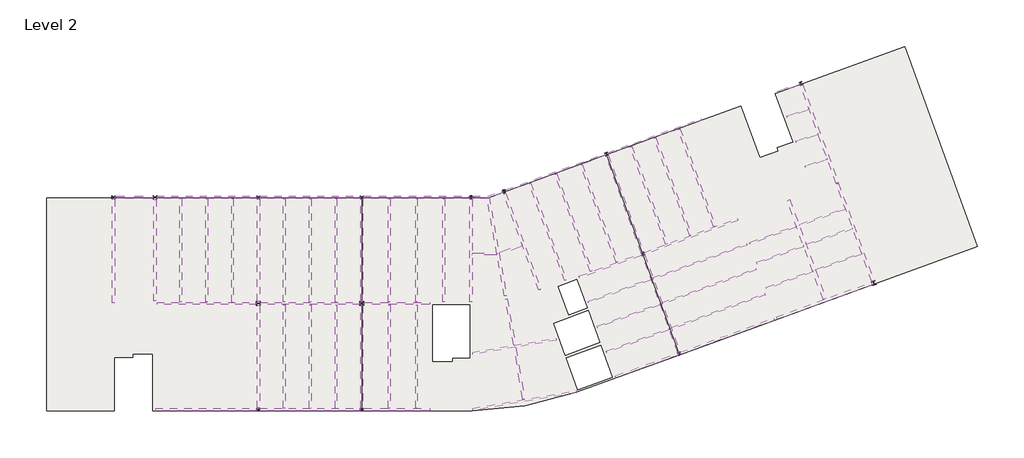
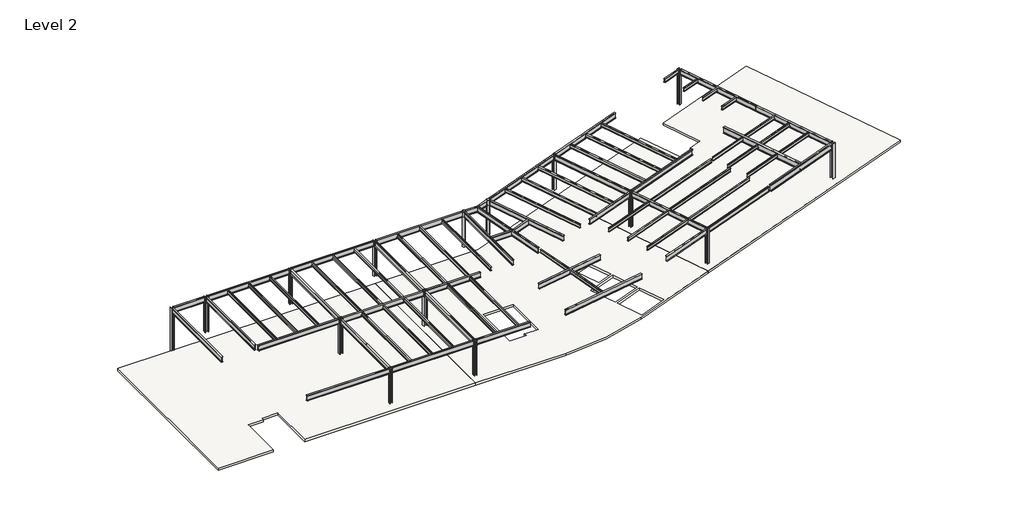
# One storey: 74 beams, 15 columns, 1 slab.
"""IFC4 building model written with IfcOpenShell, lengths in millimetres."""

from ifc_helpers import new_model, si_unit, point, frame, frame_2d, origin, place, context, project, spatial, polyline, circle_curve, trimmed, segment, composite_curve, outline, extrude, faceted_brep, transform, mapped, element, save
from components import beam_fb4f222d, ub_universal_beams_e915e172, ub_universal_beams_a95554c7, ub_universal_beams_b6dbdd7a, ub_universal_beams_885cc86f, ub_universal_beams_c84566a2, ub_universal_beams_4841b023, ub_universal_beams_20791346, ub_universal_beams_18d3feb0, ub_universal_beams_59459dd6, ub_universal_beams_568b5c51, ub_universal_beams_e00400c9, ub_universal_beams_f823aa85, ub_universal_beams_cdbcbb51, ub_universal_beams_2db27d90, ub_universal_beams_feb0265b, ub_universal_beams_78ad538f, ub_universal_beams_801fcbf0, ub_universal_beams_7192e0ee, ub_universal_beams_e0a47d06, ub_universal_beams_f5dc209c, ub_universal_beams_f862a4b8, ub_universal_beams_0fc11a2d, ub_universal_beams_7b4bcd9a, ub_universal_beams_8d1efc97, ub_universal_beams_2b7a043a, ub_universal_beams_8d2b0bf5, ub_universal_beams_43212cfb, ub_universal_beams_8ec85ef7, ub_universal_beams_16a75a32, ub_universal_beams_b9a7bbe5, ub_universal_beams_60794b88, ub_universal_beams_0c249d50, ub_universal_beams_c91190e6, ub_universal_beams_4370fdf8, ub_universal_beams_f6859559, ub_universal_beams_a9511354, ub_universal_beams_5bb895c1, ub_universal_beams_66b76362, ub_universal_beams_d54c9229, ub_universal_beams_83364cc9, ub_universal_beams_55dbae19, column_55d45f16, uc_universal_columns_column_67913ea7, uc_universal_columns_column_df0e8a14

model = new_model("IFC4")

# Units and contexts
model_context = context("Model", 3, world=origin())
ifc_project = project(units=[si_unit("LENGTHUNIT", "METRE", prefix="MILLI")], contexts=[model_context])

# Site, building, storey
site = spatial("IfcSite", under=ifc_project)
building = spatial("IfcBuilding", under=site)
storey = spatial("IfcBuildingStorey", under=building, Name="Level 2", Elevation=7595.0)

# Beams
placement = place(None, origin())
beam_shape = beam_fb4f222d(model_context)
element("IfcBeam", 1, ObjectType="Cranked Beam B3 : Cranked Beam B1", at=placement, inside=storey, context=model_context, shape_type="MappedRepresentation", body=[
    mapped(beam_shape, transform((0.0, 0.0, 0.0), x_axis=(1.0, 0.0, 0.0), y_axis=(0.0, 1.0, 0.0), z_axis=(0.0, 0.0, 1.0))),
])
ub_universal_beams_shape = ub_universal_beams_e915e172(model_context)
element("IfcBeam", 2, ObjectType="UB-Universal Beams : UB 18\" x 6\" x 2 1/2\"", at=placement, inside=storey, context=model_context, shape_type="MappedRepresentation", body=[
    mapped(ub_universal_beams_shape, transform((11712.2000023, 15363.2000005, 11471.0), x_axis=(1.0, 0.0, 0.0), y_axis=(0.0, 1.0, 0.0), z_axis=(0.0, 0.0, 1.0))),
])
ub_universal_beams_2_shape = ub_universal_beams_a95554c7(model_context)
element("IfcBeam", 3, ObjectType="UB-Universal Beams : UB 18\" x 6\" x 2 1/2\"", at=placement, inside=storey, context=model_context, shape_type="MappedRepresentation", body=[
    mapped(ub_universal_beams_2_shape, transform((19012.2000023, 15363.2000005, 11471.0), x_axis=(1.0, 0.0, 0.0), y_axis=(0.0, 1.0, 0.0), z_axis=(0.0, 0.0, 1.0))),
])
element("IfcBeam", 4, ObjectType="UB-Universal Beams : UB 18\" x 6\" x 2 1/2\"", at=placement, inside=storey, context=model_context, shape_type="MappedRepresentation", body=[
    mapped(ub_universal_beams_2_shape, transform((19012.2000022, 363.2000005, 11471.0), x_axis=(1.0, 0.0, 0.0), y_axis=(0.0, 1.0, 0.0), z_axis=(0.0, 0.0, 1.0))),
])
ub_universal_beams_3_shape = ub_universal_beams_b6dbdd7a(model_context)
element("IfcBeam", 5, ObjectType="UB-Universal Beams : UB 18\" x 6\" x 2 1/2\"", at=placement, inside=storey, context=model_context, shape_type="MappedRepresentation", body=[
    mapped(ub_universal_beams_3_shape, transform((26512.2000022, 15363.2000005, 11471.0), x_axis=(1.0, 0.0, 0.0), y_axis=(0.0, 1.0, 0.0), z_axis=(0.0, 0.0, 1.0))),
])
ub_universal_beams_4_shape = ub_universal_beams_885cc86f(model_context)
element("IfcBeam", 6, ObjectType="UB-Universal Beams : UB 18\" x 6\" x 2 1/2\"", at=placement, inside=storey, context=model_context, shape_type="MappedRepresentation", body=[
    mapped(ub_universal_beams_4_shape, transform((11674.7000023, 363.2000005, 11471.0), x_axis=(-1.0, 0.0, 0.0), y_axis=(0.0, -1.0, 0.0), z_axis=(0.0, 0.0, 1.0))),
])
ub_universal_beams_5_shape = ub_universal_beams_c84566a2(model_context)
element("IfcBeam", 7, ObjectType="UB-Universal Beams : UB 18\" x 6\" x 2 1/2\"", at=placement, inside=storey, context=model_context, shape_type="MappedRepresentation", body=[
    mapped(ub_universal_beams_5_shape, transform((19012.2000023, 7863.2000004, 11471.0), x_axis=(1.0, 0.0, 0.0), y_axis=(0.0, 1.0, 0.0), z_axis=(0.0, 0.0, 1.0))),
])
ub_universal_beams_6_shape = ub_universal_beams_4841b023(model_context)
element("IfcBeam", 8, ObjectType="UB-Universal Beams : UB 18\" x 6\" x 2 1/2\"", at=placement, inside=storey, context=model_context, shape_type="MappedRepresentation", body=[
    mapped(ub_universal_beams_6_shape, transform((25112.2000025, 7863.2000004, 11471.0), x_axis=(1.0, 0.0, 0.0), y_axis=(0.0, 1.0, 0.0), z_axis=(0.0, 0.0, 1.0))),
])
ub_universal_beams_7_shape = ub_universal_beams_20791346(model_context)
element("IfcBeam", 9, ObjectType="UB-Universal Beams : UB 18\" x 6\" x 2 1/2\"", at=placement, inside=storey, context=model_context, shape_type="MappedRepresentation", body=[
    mapped(ub_universal_beams_7_shape, transform((25112.2000025, 363.2000005, 11471.0), x_axis=(1.0, 0.0, 0.0), y_axis=(0.0, 1.0, 0.0), z_axis=(0.0, 0.0, 1.0))),
])
ub_universal_beams_8_shape = ub_universal_beams_18d3feb0(model_context)
element("IfcBeam", 10, ObjectType="UB-Universal Beams : UB 18\" x 6\" x 2 1/2\"", at=placement, inside=storey, context=model_context, shape_type="MappedRepresentation", body=[
    mapped(ub_universal_beams_8_shape, transform((8062.2000022, 11613.2000005, 11471.0), x_axis=(0.0, 1.0, 0.0), y_axis=(-1.0, 0.0, 0.0), z_axis=(0.0, 0.0, 1.0))),
])
ub_universal_beams_9_shape = ub_universal_beams_59459dd6(model_context)
element("IfcBeam", 11, ObjectType="UB-Universal Beams : UB 18\" x 6\" x 2 1/2\"", at=placement, inside=storey, context=model_context, shape_type="MappedRepresentation", body=[
    mapped(ub_universal_beams_9_shape, transform((15362.2000023, 4113.2000005, 11471.0), x_axis=(0.0, 1.0, 0.0), y_axis=(-1.0, 0.0, 0.0), z_axis=(0.0, 0.0, 1.0))),
])
element("IfcBeam", 12, ObjectType="UB-Universal Beams : UB 18\" x 6\" x 2 1/2\"", at=placement, inside=storey, context=model_context, shape_type="MappedRepresentation", body=[
    mapped(ub_universal_beams_9_shape, transform((22662.2000022, 4113.2000005, 11471.0), x_axis=(0.0, 1.0, 0.0), y_axis=(-1.0, 0.0, 0.0), z_axis=(0.0, 0.0, 1.0))),
])
ub_universal_beams_10_shape = ub_universal_beams_568b5c51(model_context)
element("IfcBeam", 13, ObjectType="UB-Universal Beams : UB 18\" x 6\" x 2 1/2\"", at=placement, inside=storey, context=model_context, shape_type="MappedRepresentation", body=[
    mapped(ub_universal_beams_10_shape, transform((15362.2000023, 11613.2000005, 11471.0), x_axis=(0.0, 1.0, 0.0), y_axis=(-1.0, 0.0, 0.0), z_axis=(0.0, 0.0, 1.0))),
])
element("IfcBeam", 14, ObjectType="UB-Universal Beams : UB 18\" x 6\" x 2 1/2\"", at=placement, inside=storey, context=model_context, shape_type="MappedRepresentation", body=[
    mapped(ub_universal_beams_10_shape, transform((22662.2000022, 11613.2000005, 11471.0), x_axis=(0.0, 1.0, 0.0), y_axis=(-1.0, 0.0, 0.0), z_axis=(0.0, 0.0, 1.0))),
])
ub_universal_beams_11_shape = ub_universal_beams_e00400c9(model_context)
element("IfcBeam", 15, ObjectType="UB-Universal Beams : UB 18\" x 6\" x 2 1/2\"", at=placement, inside=storey, context=model_context, shape_type="MappedRepresentation", body=[
    mapped(ub_universal_beams_11_shape, transform((30362.2000022, 11613.2000005, 11471.0), x_axis=(0.0, 1.0, 0.0), y_axis=(-1.0, 0.0, 0.0), z_axis=(0.0, 0.0, 1.0))),
])
ub_universal_beams_12_shape = ub_universal_beams_f823aa85(model_context)
element("IfcBeam", 16, ObjectType="UB-Universal Beams : UB 12\" x 5\" x 1 1/2\"", at=placement, inside=storey, context=model_context, shape_type="MappedRepresentation", body=[
    mapped(ub_universal_beams_12_shape, transform((9887.2000022, 11613.2000005, 11547.8), x_axis=(0.0, 1.0, 0.0), y_axis=(-1.0, 0.0, 0.0), z_axis=(0.0, 0.0, 1.0))),
])
element("IfcBeam", 17, ObjectType="UB-Universal Beams : UB 12\" x 5\" x 1 1/2\"", at=placement, inside=storey, context=model_context, shape_type="MappedRepresentation", body=[
    mapped(ub_universal_beams_12_shape, transform((11712.2000022, 11613.2000005, 11547.8), x_axis=(0.0, 1.0, 0.0), y_axis=(-1.0, 0.0, 0.0), z_axis=(0.0, 0.0, 1.0))),
])
element("IfcBeam", 18, ObjectType="UB-Universal Beams : UB 12\" x 5\" x 1 1/2\"", at=placement, inside=storey, context=model_context, shape_type="MappedRepresentation", body=[
    mapped(ub_universal_beams_12_shape, transform((13537.2000023, 11613.2000005, 11547.8), x_axis=(0.0, 1.0, 0.0), y_axis=(-1.0, 0.0, 0.0), z_axis=(0.0, 0.0, 1.0))),
])
element("IfcBeam", 19, ObjectType="UB-Universal Beams : UB 12\" x 5\" x 1 1/2\"", at=placement, inside=storey, context=model_context, shape_type="MappedRepresentation", body=[
    mapped(ub_universal_beams_12_shape, transform((17187.2000023, 11613.2000005, 11547.8), x_axis=(0.0, 1.0, 0.0), y_axis=(-1.0, 0.0, 0.0), z_axis=(0.0, 0.0, 1.0))),
])
element("IfcBeam", 20, ObjectType="UB-Universal Beams : UB 12\" x 5\" x 1 1/2\"", at=placement, inside=storey, context=model_context, shape_type="MappedRepresentation", body=[
    mapped(ub_universal_beams_12_shape, transform((19012.2000023, 11613.2000005, 11547.8), x_axis=(0.0, 1.0, 0.0), y_axis=(-1.0, 0.0, 0.0), z_axis=(0.0, 0.0, 1.0))),
])
element("IfcBeam", 21, ObjectType="UB-Universal Beams : UB 12\" x 5\" x 1 1/2\"", at=placement, inside=storey, context=model_context, shape_type="MappedRepresentation", body=[
    mapped(ub_universal_beams_12_shape, transform((20837.2000022, 11613.2000005, 11547.8), x_axis=(0.0, 1.0, 0.0), y_axis=(-1.0, 0.0, 0.0), z_axis=(0.0, 0.0, 1.0))),
])
element("IfcBeam", 22, ObjectType="UB-Universal Beams : UB 12\" x 5\" x 1 1/2\"", at=placement, inside=storey, context=model_context, shape_type="MappedRepresentation", body=[
    mapped(ub_universal_beams_12_shape, transform((24587.2000022, 11613.2000005, 11547.8), x_axis=(0.0, 1.0, 0.0), y_axis=(-1.0, 0.0, 0.0), z_axis=(0.0, 0.0, 1.0))),
])
element("IfcBeam", 23, ObjectType="UB-Universal Beams : UB 12\" x 5\" x 1 1/2\"", at=placement, inside=storey, context=model_context, shape_type="MappedRepresentation", body=[
    mapped(ub_universal_beams_12_shape, transform((26512.2000022, 11613.2000005, 11547.8), x_axis=(0.0, 1.0, 0.0), y_axis=(-1.0, 0.0, 0.0), z_axis=(0.0, 0.0, 1.0))),
])
element("IfcBeam", 24, ObjectType="UB-Universal Beams : UB 12\" x 5\" x 1 1/2\"", at=placement, inside=storey, context=model_context, shape_type="MappedRepresentation", body=[
    mapped(ub_universal_beams_12_shape, transform((17187.2000022, 4113.2000005, 11547.8), x_axis=(0.0, 1.0, 0.0), y_axis=(-1.0, 0.0, 0.0), z_axis=(0.0, 0.0, 1.0))),
])
element("IfcBeam", 25, ObjectType="UB-Universal Beams : UB 12\" x 5\" x 1 1/2\"", at=placement, inside=storey, context=model_context, shape_type="MappedRepresentation", body=[
    mapped(ub_universal_beams_12_shape, transform((19012.2000022, 4113.2000005, 11547.8), x_axis=(0.0, 1.0, 0.0), y_axis=(-1.0, 0.0, 0.0), z_axis=(0.0, 0.0, 1.0))),
])
element("IfcBeam", 26, ObjectType="UB-Universal Beams : UB 12\" x 5\" x 1 1/2\"", at=placement, inside=storey, context=model_context, shape_type="MappedRepresentation", body=[
    mapped(ub_universal_beams_12_shape, transform((20837.2000022, 4113.2000005, 11547.8), x_axis=(0.0, 1.0, 0.0), y_axis=(-1.0, 0.0, 0.0), z_axis=(0.0, 0.0, 1.0))),
])
element("IfcBeam", 27, ObjectType="UB-Universal Beams : UB 12\" x 5\" x 1 1/2\"", at=placement, inside=storey, context=model_context, shape_type="MappedRepresentation", body=[
    mapped(ub_universal_beams_12_shape, transform((24587.2000022, 4113.2000004, 11547.8), x_axis=(0.0, 1.0, 0.0), y_axis=(-1.0, 0.0, 0.0), z_axis=(0.0, 0.0, 1.0))),
])
element("IfcBeam", 28, ObjectType="UB-Universal Beams : UB 12\" x 5\" x 1 1/2\"", at=placement, inside=storey, context=model_context, shape_type="MappedRepresentation", body=[
    mapped(ub_universal_beams_12_shape, transform((26512.2000022, 4113.2000004, 11547.8), x_axis=(0.0, 1.0, 0.0), y_axis=(-1.0, 0.0, 0.0), z_axis=(0.0, 0.0, 1.0))),
])
element("IfcBeam", 29, ObjectType="UB-Universal Beams : UB 12\" x 5\" x 1 1/2\"", at=placement, inside=storey, context=model_context, shape_type="MappedRepresentation", body=[
    mapped(ub_universal_beams_12_shape, transform((39409.0148654, 14226.6858637, 11547.8), x_axis=(0.34202014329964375, -0.9396926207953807, 0.0), y_axis=(0.9396926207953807, 0.34202014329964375, 0.0), z_axis=(0.0, 0.0, 1.0))),
])
element("IfcBeam", 30, ObjectType="UB-Universal Beams : UB 12\" x 5\" x 1 1/2\"", at=placement, inside=storey, context=model_context, shape_type="MappedRepresentation", body=[
    mapped(ub_universal_beams_12_shape, transform((37600.1065704, 13568.2970878, 11547.8), x_axis=(0.34202014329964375, -0.9396926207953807, 0.0), y_axis=(0.9396926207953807, 0.34202014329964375, 0.0), z_axis=(0.0, 0.0, 1.0))),
])
element("IfcBeam", 31, ObjectType="UB-Universal Beams : UB 12\" x 5\" x 1 1/2\"", at=placement, inside=storey, context=model_context, shape_type="MappedRepresentation", body=[
    mapped(ub_universal_beams_12_shape, transform((42915.2429568, 15502.8485233, 11547.8), x_axis=(-0.3420201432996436, 0.9396926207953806, 0.0), y_axis=(-0.9396926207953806, -0.3420201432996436, 0.0), z_axis=(0.0, 0.0, 1.0))),
])
element("IfcBeam", 32, ObjectType="UB-Universal Beams : UB 12\" x 5\" x 1 1/2\"", at=placement, inside=storey, context=model_context, shape_type="MappedRepresentation", body=[
    mapped(ub_universal_beams_12_shape, transform((44612.5627531, 16120.6224071, 11547.8), x_axis=(-0.34202014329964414, 0.9396926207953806, 0.0), y_axis=(-0.9396926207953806, -0.34202014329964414, 0.0), z_axis=(0.0, 0.0, 1.0))),
])
element("IfcBeam", 33, ObjectType="UB-Universal Beams : UB 12\" x 5\" x 1 1/2\"", at=placement, inside=storey, context=model_context, shape_type="MappedRepresentation", body=[
    mapped(ub_universal_beams_12_shape, transform((46309.8825494, 16738.396291, 11547.8), x_axis=(-0.34202014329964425, 0.9396926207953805, 0.0), y_axis=(-0.9396926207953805, -0.34202014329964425, 0.0), z_axis=(0.0, 0.0, 1.0))),
])
ub_universal_beams_13_shape = ub_universal_beams_cdbcbb51(model_context)
element("IfcBeam", 34, ObjectType="UB-Universal Beams : UB 12\" x 5\" x 1 1/2\"", at=placement, inside=storey, context=model_context, shape_type="MappedRepresentation", body=[
    mapped(ub_universal_beams_13_shape, transform((28437.2000022, 11613.2000005, 11547.8), x_axis=(0.0, 1.0, 0.0), y_axis=(-1.0, 0.0, 0.0), z_axis=(0.0, 0.0, 1.0))),
])
ub_universal_beams_14_shape = ub_universal_beams_2db27d90(model_context)
element("IfcBeam", 35, ObjectType="UB-Universal Beams : UB 18\" x 6\" x 2 1/2\"", at=placement, inside=storey, context=model_context, shape_type="MappedRepresentation", body=[
    mapped(ub_universal_beams_14_shape, transform((33982.2899804, 12251.5195361, 11471.0), x_axis=(0.3420201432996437, -0.9396926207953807, 0.0), y_axis=(0.9396926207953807, 0.3420201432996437, 0.0), z_axis=(0.0, 0.0, 1.0))),
])
ub_universal_beams_15_shape = ub_universal_beams_feb0265b(model_context)
element("IfcBeam", 36, ObjectType="UB-Universal Beams : UB 18\" x 6\" x 2 1/2\"", at=placement, inside=storey, context=model_context, shape_type="MappedRepresentation", body=[
    mapped(ub_universal_beams_15_shape, transform((32191.7898055, 11821.5156209, 11471.0), x_axis=(0.173648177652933, -0.9848077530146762, 0.0), y_axis=(0.9848077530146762, 0.173648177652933, 0.0), z_axis=(0.0, 0.0, 1.0))),
])
ub_universal_beams_16_shape = ub_universal_beams_78ad538f(model_context)
element("IfcBeam", 37, ObjectType="UB-Universal Beams : UB 18\" x 6\" x 2 1/2\"", at=placement, inside=storey, context=model_context, shape_type="MappedRepresentation", body=[
    mapped(ub_universal_beams_16_shape, transform((31317.5755278, 11361.2273115, 11471.0), x_axis=(1.0, 0.0, 0.0), y_axis=(0.0, 1.0, 0.0), z_axis=(0.0, 0.0, 1.0))),
])
ub_universal_beams_17_shape = ub_universal_beams_801fcbf0(model_context)
element("IfcBeam", 38, ObjectType="UB-Universal Beams : UB 18\" x 6\" x 2 1/2\"", at=placement, inside=storey, context=model_context, shape_type="MappedRepresentation", body=[
    mapped(ub_universal_beams_17_shape, transform((33170.7103845, 11687.9849855, 11471.0), x_axis=(0.9396926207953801, 0.3420201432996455, 0.0), y_axis=(-0.3420201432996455, 0.9396926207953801, 0.0), z_axis=(0.0, 0.0, 1.0))),
])
ub_universal_beams_18_shape = ub_universal_beams_7192e0ee(model_context)
element("IfcBeam", 39, ObjectType="UB-Universal Beams : UB 18\" x 6\" x 2 1/2\"", at=placement, inside=storey, context=model_context, shape_type="MappedRepresentation", body=[
    mapped(ub_universal_beams_18_shape, transform((43329.9872158, 19644.4697351, 11471.0), x_axis=(0.9396926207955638, 0.3420201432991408, 0.0), y_axis=(-0.3420201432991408, 0.9396926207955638, 0.0), z_axis=(0.0, 0.0, 1.0))),
])
element("IfcBeam", 40, ObjectType="UB-Universal Beams : UB 18\" x 6\" x 2 1/2\"", at=placement, inside=storey, context=model_context, shape_type="MappedRepresentation", body=[
    mapped(ub_universal_beams_18_shape, transform((45895.1382905, 12596.7750792, 11471.0), x_axis=(0.9396926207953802, 0.34202014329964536, 0.0), y_axis=(-0.34202014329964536, 0.9396926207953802, 0.0), z_axis=(0.0, 0.0, 1.0))),
])
element("IfcBeam", 41, ObjectType="UB-Universal Beams : UB 18\" x 6\" x 2 1/2\"", at=placement, inside=storey, context=model_context, shape_type="MappedRepresentation", body=[
    mapped(ub_universal_beams_18_shape, transform((48460.2893652, 5549.0804232, 11471.0), x_axis=(0.9396926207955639, 0.3420201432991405, 0.0), y_axis=(-0.3420201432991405, 0.9396926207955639, 0.0), z_axis=(0.0, 0.0, 1.0))),
])
ub_universal_beams_19_shape = ub_universal_beams_e0a47d06(model_context)
element("IfcBeam", 42, ObjectType="UB-Universal Beams : UB 18\" x 6\" x 2 1/2\"", at=placement, inside=storey, context=model_context, shape_type="MappedRepresentation", body=[
    mapped(ub_universal_beams_19_shape, transform((40198.2517768, 10523.2779603, 11471.0), x_axis=(0.9396926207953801, 0.34202014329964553, 0.0), y_axis=(-0.34202014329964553, 0.9396926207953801, 0.0), z_axis=(0.0, 0.0, 1.0))),
])
ub_universal_beams_20_shape = ub_universal_beams_f5dc209c(model_context)
element("IfcBeam", 43, ObjectType="UB-Universal Beams : UB 18\" x 6\" x 2 1/2\"", at=placement, inside=storey, context=model_context, shape_type="MappedRepresentation", body=[
    mapped(ub_universal_beams_20_shape, transform((41217.9231605, 14885.0746394, 11471.0), x_axis=(-0.3420201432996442, 0.9396926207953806, 0.0), y_axis=(-0.9396926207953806, -0.3420201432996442, 0.0), z_axis=(0.0, 0.0, 1.0))),
])
element("IfcBeam", 44, ObjectType="UB-Universal Beams : UB 18\" x 6\" x 2 1/2\"", at=placement, inside=storey, context=model_context, shape_type="MappedRepresentation", body=[
    mapped(ub_universal_beams_20_shape, transform((43783.0742352, 7837.3799835, 11471.0), x_axis=(-0.3420201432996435, 0.939692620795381, 0.0), y_axis=(-0.939692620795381, -0.3420201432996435, 0.0), z_axis=(0.0, 0.0, 1.0))),
])
ub_universal_beams_21_shape = ub_universal_beams_f862a4b8(model_context)
element("IfcBeam", 45, ObjectType="UB-Universal Beams : UB 18\" x 6\" x 2 1/2\"", at=placement, inside=storey, context=model_context, shape_type="MappedRepresentation", body=[
    mapped(ub_universal_beams_21_shape, transform((42763.4028515, 3475.5833044, 11471.0), x_axis=(-0.9396926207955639, -0.34202014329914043, 0.0), y_axis=(0.34202014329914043, -0.9396926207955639, 0.0), z_axis=(0.0, 0.0, 1.0))),
])
ub_universal_beams_22_shape = ub_universal_beams_0fc11a2d(model_context)
element("IfcBeam", 46, ObjectType="UB-Universal Beams : UB 20 1/2\" x 8 1/2\" x 3 1/2\"", at=placement, inside=storey, context=model_context, shape_type="MappedRepresentation", body=[
    mapped(ub_universal_beams_22_shape, transform((55320.045497, 8045.8274693, 11435.85), x_axis=(0.9396926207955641, 0.3420201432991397, 0.0), y_axis=(-0.3420201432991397, 0.9396926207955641, 0.0), z_axis=(0.0, 0.0, 1.0))),
])
ub_universal_beams_23_shape = ub_universal_beams_7b4bcd9a(model_context)
element("IfcBeam", 47, ObjectType="UB-Universal Beams : UB 18\" x 6\" x 2 1/2\"", at=placement, inside=storey, context=model_context, shape_type="MappedRepresentation", body=[
    mapped(ub_universal_beams_23_shape, transform((54937.4354241, 19878.5687316, 11471.0), x_axis=(-0.3420201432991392, 0.9396926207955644, 0.0), y_axis=(-0.9396926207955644, -0.3420201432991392, 0.0), z_axis=(0.0, 0.0, 1.0))),
])
ub_universal_beams_24_shape = ub_universal_beams_8d1efc97(model_context)
element("IfcBeam", 48, ObjectType="UB-Universal Beams : UB 12\" x 5\" x 1 1/2\"", at=placement, inside=storey, context=model_context, shape_type="MappedRepresentation", body=[
    mapped(ub_universal_beams_24_shape, transform((35791.1982754, 12909.908312, 11547.8), x_axis=(0.3420201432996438, -0.9396926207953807, 0.0), y_axis=(0.9396926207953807, 0.3420201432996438, 0.0), z_axis=(0.0, 0.0, 1.0))),
])
ub_universal_beams_25_shape = ub_universal_beams_2b7a043a(model_context)
element("IfcBeam", 49, ObjectType="UB-Universal Beams : UB 12\" x 5\" x 1 1/2\"", at=placement, inside=storey, context=model_context, shape_type="MappedRepresentation", body=[
    mapped(ub_universal_beams_25_shape, transform((42122.1150828, 5237.5069684, 11547.8), x_axis=(-0.939692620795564, -0.3420201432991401, 0.0), y_axis=(0.3420201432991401, -0.939692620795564, 0.0), z_axis=(0.0, 0.0, 1.0))),
])
element("IfcBeam", 50, ObjectType="UB-Universal Beams : UB 12\" x 5\" x 1 1/2\"", at=placement, inside=storey, context=model_context, shape_type="MappedRepresentation", body=[
    mapped(ub_universal_beams_25_shape, transform((41480.8273141, 6999.4306323, 11547.8), x_axis=(-0.9396926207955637, -0.3420201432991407, 0.0), y_axis=(0.3420201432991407, -0.9396926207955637, 0.0), z_axis=(0.0, 0.0, 1.0))),
])
element("IfcBeam", 51, ObjectType="UB-Universal Beams : UB 12\" x 5\" x 1 1/2\"", at=placement, inside=storey, context=model_context, shape_type="MappedRepresentation", body=[
    mapped(ub_universal_beams_25_shape, transform((40839.5395455, 8761.3542963, 11547.8), x_axis=(-0.939692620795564, -0.3420201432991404, 0.0), y_axis=(0.3420201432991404, -0.939692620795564, 0.0), z_axis=(0.0, 0.0, 1.0))),
])
ub_universal_beams_26_shape = ub_universal_beams_8d2b0bf5(model_context)
element("IfcBeam", 52, ObjectType="UB-Universal Beams : UB 12\" x 5\" x 1 1/2\"", at=placement, inside=storey, context=model_context, shape_type="MappedRepresentation", body=[
    mapped(ub_universal_beams_26_shape, transform((46536.4260592, 10834.8514152, 11547.8), x_axis=(0.9396926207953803, 0.342020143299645, 0.0), y_axis=(-0.342020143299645, 0.9396926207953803, 0.0), z_axis=(0.0, 0.0, 1.0))),
])
element("IfcBeam", 53, ObjectType="UB-Universal Beams : UB 12\" x 5\" x 1 1/2\"", at=placement, inside=storey, context=model_context, shape_type="MappedRepresentation", body=[
    mapped(ub_universal_beams_26_shape, transform((47177.7138279, 9072.9277512, 11547.8), x_axis=(0.93969262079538, 0.34202014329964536, 0.0), y_axis=(-0.34202014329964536, 0.93969262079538, 0.0), z_axis=(0.0, 0.0, 1.0))),
])
element("IfcBeam", 54, ObjectType="UB-Universal Beams : UB 12\" x 5\" x 1 1/2\"", at=placement, inside=storey, context=model_context, shape_type="MappedRepresentation", body=[
    mapped(ub_universal_beams_26_shape, transform((47819.0015966, 7311.0040872, 11547.8), x_axis=(0.9396926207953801, 0.3420201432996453, 0.0), y_axis=(-0.3420201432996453, 0.9396926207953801, 0.0), z_axis=(0.0, 0.0, 1.0))),
])
ub_universal_beams_27_shape = ub_universal_beams_43212cfb(model_context)
element("IfcBeam", 55, ObjectType="UB-Universal Beams : UB 18\" x 6\" x 2 1/2\"", at=placement, inside=storey, context=model_context, shape_type="MappedRepresentation", body=[
    mapped(ub_universal_beams_27_shape, transform((57502.5864988, 12830.8740757, 11471.0), x_axis=(0.3420201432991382, -0.9396926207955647, 0.0), y_axis=(0.9396926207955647, 0.3420201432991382, 0.0), z_axis=(0.0, 0.0, 1.0))),
])
ub_universal_beams_28_shape = ub_universal_beams_8ec85ef7(model_context)
element("IfcBeam", 56, ObjectType="UB-Universal Beams : UB 20 1/2\" x 8 1/2\" x 3 1/2\"", at=placement, inside=storey, context=model_context, shape_type="MappedRepresentation", body=[
    mapped(ub_universal_beams_28_shape, transform((54042.3541451, 11665.8982726, 11435.85), x_axis=(-0.34202014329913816, 0.9396926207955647, 0.0), y_axis=(-0.9396926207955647, -0.34202014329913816, 0.0), z_axis=(0.0, 0.0, 1.0))),
])
ub_universal_beams_29_shape = ub_universal_beams_16a75a32(model_context)
element("IfcBeam", 57, ObjectType="UB-Universal Beams : UB 12\" x 5\" x 1 1/2\"", at=placement, inside=storey, context=model_context, shape_type="MappedRepresentation", body=[
    mapped(ub_universal_beams_29_shape, transform((52185.7228693, 11321.365084, 11547.8), x_axis=(0.9396926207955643, 0.3420201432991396, 0.0), y_axis=(-0.3420201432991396, 0.9396926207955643, 0.0), z_axis=(0.0, 0.0, 1.0))),
])
element("IfcBeam", 58, ObjectType="UB-Universal Beams : UB 12\" x 5\" x 1 1/2\"", at=placement, inside=storey, context=model_context, shape_type="MappedRepresentation", body=[
    mapped(ub_universal_beams_29_shape, transform((51681.2431579, 12707.4116997, 11547.8), x_axis=(0.9396926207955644, 0.34202014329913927, 0.0), y_axis=(-0.34202014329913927, 0.9396926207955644, 0.0), z_axis=(0.0, 0.0, 1.0))),
])
ub_universal_beams_30_shape = ub_universal_beams_b9a7bbe5(model_context)
element("IfcBeam", 59, ObjectType="UB-Universal Beams : UB 12\" x 5\" x 1 1/2\"", at=placement, inside=storey, context=model_context, shape_type="MappedRepresentation", body=[
    mapped(ub_universal_beams_30_shape, transform((55650.8394085, 12582.5643624, 11547.8), x_axis=(0.939692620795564, 0.34202014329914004, 0.0), y_axis=(-0.34202014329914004, 0.939692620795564, 0.0), z_axis=(0.0, 0.0, 1.0))),
])
element("IfcBeam", 60, ObjectType="UB-Universal Beams : UB 12\" x 5\" x 1 1/2\"", at=placement, inside=storey, context=model_context, shape_type="MappedRepresentation", body=[
    mapped(ub_universal_beams_30_shape, transform((56300.6776807, 10797.1483829, 11547.8), x_axis=(0.9396926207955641, 0.3420201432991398, 0.0), y_axis=(-0.3420201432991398, 0.9396926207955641, 0.0), z_axis=(0.0, 0.0, 1.0))),
])
element("IfcBeam", 61, ObjectType="UB-Universal Beams : UB 12\" x 5\" x 1 1/2\"", at=placement, inside=storey, context=model_context, shape_type="MappedRepresentation", body=[
    mapped(ub_universal_beams_30_shape, transform((55146.3596971, 13968.6109781, 11547.8), x_axis=(0.9396926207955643, 0.34202014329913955, 0.0), y_axis=(-0.34202014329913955, 0.9396926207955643, 0.0), z_axis=(0.0, 0.0, 1.0))),
])
ub_universal_beams_31_shape = ub_universal_beams_60794b88(model_context)
element("IfcBeam", 62, ObjectType="UB-Universal Beams : UB 12\" x 5\" x 1 1/2\"", at=placement, inside=storey, context=model_context, shape_type="MappedRepresentation", body=[
    mapped(ub_universal_beams_31_shape, transform((53431.3248942, 21325.7226526, 11547.8), x_axis=(-0.939692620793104, -0.34202014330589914, 0.0), y_axis=(0.34202014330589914, -0.939692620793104, 0.0), z_axis=(0.0, 0.0, 1.0))),
])
element("IfcBeam", 63, ObjectType="UB-Universal Beams : UB 12\" x 5\" x 1 1/2\"", at=placement, inside=storey, context=model_context, shape_type="MappedRepresentation", body=[
    mapped(ub_universal_beams_31_shape, transform((54072.6126629, 19563.7989886, 11547.8), x_axis=(-0.939692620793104, -0.3420201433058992, 0.0), y_axis=(0.3420201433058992, -0.939692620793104, 0.0), z_axis=(0.0, 0.0, 1.0))),
])
element("IfcBeam", 64, ObjectType="UB-Universal Beams : UB 12\" x 5\" x 1 1/2\"", at=placement, inside=storey, context=model_context, shape_type="MappedRepresentation", body=[
    mapped(ub_universal_beams_31_shape, transform((54713.9004316, 17801.8753247, 11547.8), x_axis=(-0.939692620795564, -0.34202014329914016, 0.0), y_axis=(0.34202014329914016, -0.939692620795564, 0.0), z_axis=(0.0, 0.0, 1.0))),
])
ub_universal_beams_32_shape = ub_universal_beams_0c249d50(model_context)
element("IfcBeam", 65, ObjectType="UB-Universal Beams : UB 12\" x 5\" x 1 1/2\"", at=placement, inside=storey, context=model_context, shape_type="MappedRepresentation", body=[
    mapped(ub_universal_beams_32_shape, transform((52835.5611416, 9535.9491045, 11547.8), x_axis=(-0.9396926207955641, -0.34202014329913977, 0.0), y_axis=(0.34202014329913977, -0.9396926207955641, 0.0), z_axis=(0.0, 0.0, 1.0))),
])
ub_universal_beams_33_shape = ub_universal_beams_c91190e6(model_context)
element("IfcBeam", 66, ObjectType="UB-Universal Beams : UB 18\" x 6\" x 2 1/2\"", at=placement, inside=storey, context=model_context, shape_type="MappedRepresentation", body=[
    mapped(ub_universal_beams_33_shape, transform((36317.5310328, 17092.1444158, 11471.0), x_axis=(0.9396926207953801, 0.3420201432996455, 0.0), y_axis=(-0.3420201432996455, 0.9396926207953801, 0.0), z_axis=(0.0, 0.0, 1.0))),
])
ub_universal_beams_34_shape = ub_universal_beams_4370fdf8(model_context)
element("IfcBeam", 67, ObjectType="UB-Universal Beams : UB 18\" x 6\" x 2 1/2\"", at=placement, inside=storey, context=model_context, shape_type="MappedRepresentation", body=[
    mapped(ub_universal_beams_34_shape, transform((6543.0666692, 15363.2000005, 11471.0), x_axis=(1.0, 0.0, 0.0), y_axis=(0.0, 1.0, 0.0), z_axis=(0.0, 0.0, 1.0))),
])
ub_universal_beams_35_shape = ub_universal_beams_f6859559(model_context)
element("IfcBeam", 68, ObjectType="UB-Universal Beams : UB 18\" x 6\" x 2 1/2\"", at=placement, inside=storey, context=model_context, shape_type="MappedRepresentation", body=[
    mapped(ub_universal_beams_35_shape, transform((11675.1750024, 7863.2000004, 11471.0), x_axis=(-1.0, 0.0, 0.0), y_axis=(0.0, -1.0, 0.0), z_axis=(0.0, 0.0, 1.0))),
])
ub_universal_beams_36_shape = ub_universal_beams_a9511354(model_context)
element("IfcBeam", 69, ObjectType="UB-Universal Beams : UB 18\" x 6\" x 2 1/2\"", at=placement, inside=storey, context=model_context, shape_type="MappedRepresentation", body=[
    mapped(ub_universal_beams_36_shape, transform((5131.8666692, 11575.7000004, 11471.0), x_axis=(0.0, -1.0, 0.0), y_axis=(1.0, 0.0, 0.0), z_axis=(0.0, 0.0, 1.0))),
])
ub_universal_beams_37_shape = ub_universal_beams_5bb895c1(model_context)
element("IfcBeam", 70, ObjectType="UB-Universal Beams : UB 12\" x 5\" x 1 1/2\"", at=placement, inside=storey, context=model_context, shape_type="MappedRepresentation", body=[
    mapped(ub_universal_beams_37_shape, transform((52790.0371255, 23087.6463166, 11547.8), x_axis=(-0.939692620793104, -0.34202014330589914, 0.0), y_axis=(0.34202014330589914, -0.939692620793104, 0.0), z_axis=(0.0, 0.0, 1.0))),
])
ub_universal_beams_38_shape = ub_universal_beams_66b76362(model_context)
element("IfcBeam", 71, ObjectType="UB-Universal Beams : UB 18\" x 6\" x 2 1/2\"", at=placement, inside=storey, context=model_context, shape_type="MappedRepresentation", body=[
    mapped(ub_universal_beams_38_shape, transform((34104.0944675, 999.6469535, 11471.0), x_axis=(0.985841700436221, 0.1676786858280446, 0.0), y_axis=(-0.1676786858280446, 0.985841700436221, 0.0), z_axis=(0.0, 0.0, 1.0))),
])
ub_universal_beams_39_shape = ub_universal_beams_d54c9229(model_context)
element("IfcBeam", 72, ObjectType="UB-Universal Beams : UB 18\" x 6\" x 2 1/2\"", at=placement, inside=storey, context=model_context, shape_type="MappedRepresentation", body=[
    mapped(ub_universal_beams_39_shape, transform((33427.1029223, 4834.8322654, 11471.0), x_axis=(0.9858417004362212, 0.1676786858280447, 0.0), y_axis=(-0.1676786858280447, 0.9858417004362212, 0.0), z_axis=(0.0, 0.0, 1.0))),
])
ub_universal_beams_40_shape = ub_universal_beams_83364cc9(model_context)
element("IfcBeam", 73, ObjectType="UB-Universal Beams : UB 12\" x 5\" x 1 1/2\"", at=placement, inside=storey, context=model_context, shape_type="MappedRepresentation", body=[
    mapped(ub_universal_beams_40_shape, transform((33777.5903073, 2919.2792248, 11547.8), x_axis=(-0.16767868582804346, 0.9858417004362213, 0.0), y_axis=(-0.9858417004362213, -0.16767868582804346, 0.0), z_axis=(0.0, 0.0, 1.0))),
])
ub_universal_beams_41_shape = ub_universal_beams_55dbae19(model_context)
element("IfcBeam", 74, ObjectType="UB-Universal Beams : UB 12\" x 5\" x 1 1/2\"", at=placement, inside=storey, context=model_context, shape_type="MappedRepresentation", body=[
    mapped(ub_universal_beams_41_shape, transform((33147.2993723, 6561.7719088, 11547.8), x_axis=(-0.17364817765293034, 0.9848077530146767, 0.0), y_axis=(-0.9848077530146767, -0.17364817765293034, 0.0), z_axis=(0.0, 0.0, 1.0))),
])

# Columns
column_shape = column_55d45f16(model_context)
element("IfcColumn", 75, ObjectType="Circular Hollow Sections-Column : CHS 9 1/2\" x 1/4\"", at=placement, inside=storey, context=model_context, shape_type="MappedRepresentation", body=[
    mapped(column_shape, transform((30362.2000022, 15363.2000005, 0.0), x_axis=(0.0, 1.0, 0.0), y_axis=(-1.0, 0.0, 0.0), z_axis=(0.0, 0.0, 1.0))),
])
element("IfcColumn", 76, ObjectType="Circular Hollow Sections-Column : CHS 9 1/2\" x 1/4\"", at=placement, inside=storey, context=model_context, shape_type="MappedRepresentation", body=[
    mapped(column_shape, transform((32699.714443, 15775.3668642, 0.0), x_axis=(1.0, 0.0, 0.0), y_axis=(0.0, 1.0, 0.0), z_axis=(0.0, 0.0, 1.0))),
])
element("IfcColumn", 77, ObjectType="UC-Universal Columns-Column : UC 8\" x 8\" x 3\"", at=placement, inside=storey, context=model_context, shape_type="SweptSolid", body=[
    extrude(outline(composite_curve([segment(polyline([(5023.9666692, 15466.4000005), (5041.2666692, 15466.4000005), (5041.2666692, 15378.4000005)]), True, "CONTINUOUS"), segment(trimmed(circle_curve(frame_2d((5051.4666692, 15378.4000005)), 10.2), [point((5041.2666692, 15378.4000005))], [point((5051.4666692, 15368.2000005))], True, "CARTESIAN"), True, "CONTINUOUS"), segment(polyline([(5051.4666692, 15368.2000005), (5212.2666692, 15368.2000005)]), True, "CONTINUOUS"), segment(trimmed(circle_curve(frame_2d((5212.2666692, 15378.4000005)), 10.2), [point((5212.2666692, 15368.2000005))], [point((5222.4666692, 15378.4000005))], True, "CARTESIAN"), True, "CONTINUOUS"), segment(polyline([(5222.4666692, 15378.4000005), (5222.4666692, 15466.4000005), (5239.7666692, 15466.4000005), (5239.7666692, 15260.0000005), (5222.4666692, 15260.0000005), (5222.4666692, 15348.0000005)]), True, "CONTINUOUS"), segment(trimmed(circle_curve(frame_2d((5212.2666692, 15348.0000005)), 10.2), [point((5222.4666692, 15348.0000005))], [point((5212.2666692, 15358.2000005))], True, "CARTESIAN"), True, "CONTINUOUS"), segment(polyline([(5212.2666692, 15358.2000005), (5051.4666692, 15358.2000005)]), True, "CONTINUOUS"), segment(trimmed(circle_curve(frame_2d((5051.4666692, 15348.0000005)), 10.2), [point((5051.4666692, 15358.2000005))], [point((5041.2666692, 15348.0000005))], True, "CARTESIAN"), True, "CONTINUOUS"), segment(polyline([(5041.2666692, 15348.0000005), (5041.2666692, 15260.0000005), (5023.9666692, 15260.0000005), (5023.9666692, 15466.4000005)]), True, "CONTINUOUS")], self_intersect=False)), frame((0.0, 0.0, 7595.0), z_axis=(0.0, 0.0, 1.0), x_axis=(1.0, 0.0, 0.0)), (0.0, 0.0, 1.0), 4105.0),
])
uc_universal_columns_column_shape = uc_universal_columns_column_67913ea7(model_context)
element("IfcColumn", 78, ObjectType="UC-Universal Columns-Column : UC 10\" x 10\" x 5 1/2\"", at=placement, inside=storey, context=model_context, shape_type="MappedRepresentation", body=[
    mapped(uc_universal_columns_column_shape, transform((15362.2000023, 7863.2000004, 0.0), x_axis=(0.0, 1.0, 0.0), y_axis=(-1.0, 0.0, 0.0), z_axis=(0.0, 0.0, 1.0))),
])
element("IfcColumn", 79, ObjectType="UC-Universal Columns-Column : UC 10\" x 10\" x 5 1/2\"", at=placement, inside=storey, context=model_context, shape_type="MappedRepresentation", body=[
    mapped(uc_universal_columns_column_shape, transform((22662.2000022, 7863.2000004, 0.0), x_axis=(0.0, 1.0, 0.0), y_axis=(-1.0, 0.0, 0.0), z_axis=(0.0, 0.0, 1.0))),
])
element("IfcColumn", 80, ObjectType="UC-Universal Columns-Column : UC 10\" x 10\" x 5 1/2\"", at=placement, inside=storey, context=model_context, shape_type="MappedRepresentation", body=[
    mapped(uc_universal_columns_column_shape, transform((8062.2000022, 15363.2000005, 0.0), x_axis=(0.0, 1.0, 0.0), y_axis=(-1.0, 0.0, 0.0), z_axis=(0.0, 0.0, 1.0))),
])
element("IfcColumn", 81, ObjectType="UC-Universal Columns-Column : UC 10\" x 10\" x 5 1/2\"", at=placement, inside=storey, context=model_context, shape_type="MappedRepresentation", body=[
    mapped(uc_universal_columns_column_shape, transform((58785.1620362, 9307.0267477, 0.0), x_axis=(0.9396926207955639, 0.3420201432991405, 0.0), y_axis=(-0.3420201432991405, 0.9396926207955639, 0.0), z_axis=(0.0, 0.0, 1.0))),
])
uc_universal_columns_column_2_shape = uc_universal_columns_column_df0e8a14(model_context)
element("IfcColumn", 82, ObjectType="UC-Universal Columns-Column : UC 8\" x 8\" x 3\"", at=placement, inside=storey, context=model_context, shape_type="MappedRepresentation", body=[
    mapped(uc_universal_columns_column_2_shape, transform((22662.2000023, 15363.2000005, 0.0), x_axis=(0.0, 1.0, 0.0), y_axis=(-1.0, 0.0, 0.0), z_axis=(0.0, 0.0, 1.0))),
])
element("IfcColumn", 83, ObjectType="UC-Universal Columns-Column : UC 8\" x 8\" x 3\"", at=placement, inside=storey, context=model_context, shape_type="MappedRepresentation", body=[
    mapped(uc_universal_columns_column_2_shape, transform((15362.2000023, 15363.2000005, 0.0), x_axis=(0.0, 1.0, 0.0), y_axis=(-1.0, 0.0, 0.0), z_axis=(0.0, 0.0, 1.0))),
])
element("IfcColumn", 84, ObjectType="UC-Universal Columns-Column : UC 8\" x 8\" x 3\"", at=placement, inside=storey, context=model_context, shape_type="MappedRepresentation", body=[
    mapped(uc_universal_columns_column_2_shape, transform((15362.2000023, 363.2000005, 0.0), x_axis=(0.0, 1.0, 0.0), y_axis=(-1.0, 0.0, 0.0), z_axis=(0.0, 0.0, 1.0))),
])
element("IfcColumn", 85, ObjectType="UC-Universal Columns-Column : UC 8\" x 8\" x 3\"", at=placement, inside=storey, context=model_context, shape_type="MappedRepresentation", body=[
    mapped(uc_universal_columns_column_2_shape, transform((22662.2000022, 363.2000005, 0.0), x_axis=(0.0, 1.0, 0.0), y_axis=(-1.0, 0.0, 0.0), z_axis=(0.0, 0.0, 1.0))),
])
element("IfcColumn", 86, ObjectType="UC-Universal Columns-Column : UC 8\" x 8\" x 3\"", at=placement, inside=storey, context=model_context, shape_type="MappedRepresentation", body=[
    mapped(uc_universal_columns_column_2_shape, transform((42500.4986978, 11361.2273115, 0.0), x_axis=(0.9396926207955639, 0.3420201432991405, 0.0), y_axis=(-0.3420201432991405, 0.9396926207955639, 0.0), z_axis=(0.0, 0.0, 1.0))),
])
element("IfcColumn", 87, ObjectType="UC-Universal Columns-Column : UC 8\" x 8\" x 3\"", at=placement, inside=storey, context=model_context, shape_type="MappedRepresentation", body=[
    mapped(uc_universal_columns_column_2_shape, transform((39935.3476231, 18408.9219674, 0.0), x_axis=(0.9396926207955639, 0.3420201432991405, 0.0), y_axis=(-0.3420201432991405, 0.9396926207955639, 0.0), z_axis=(0.0, 0.0, 1.0))),
])
element("IfcColumn", 88, ObjectType="UC-Universal Columns-Column : UC 8\" x 8\" x 3\"", at=placement, inside=storey, context=model_context, shape_type="MappedRepresentation", body=[
    mapped(uc_universal_columns_column_2_shape, transform((53654.8598867, 23402.4160596, 0.0), x_axis=(0.9396926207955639, 0.3420201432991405, 0.0), y_axis=(-0.3420201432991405, 0.9396926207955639, 0.0), z_axis=(0.0, 0.0, 1.0))),
])
element("IfcColumn", 89, ObjectType="UC-Universal Columns-Column : UC 8\" x 8\" x 3\"", at=placement, inside=storey, context=model_context, shape_type="MappedRepresentation", body=[
    mapped(uc_universal_columns_column_2_shape, transform((45065.6497726, 4313.5326555, 0.0), x_axis=(0.939692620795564, 0.3420201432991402, 0.0), y_axis=(-0.3420201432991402, 0.939692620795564, 0.0), z_axis=(0.0, 0.0, 1.0))),
])

# Slab
element("IfcSlab", 90, ObjectType="RC COMP 7\"", at=placement, inside=storey, context=model_context, shape_type="SolidModel", body=[
    extrude(outline(polyline([(39950.6701255, 18366.823738), (49412.7637168, 21810.7441587), (50743.9061145, 18153.4604787), (52050.0788572, 18628.8684778), (51964.5738214, 18863.791633), (53092.2049665, 19274.215805), (51846.5676046, 22696.5763298), (60969.2448211, 26016.9592931), (66109.9443828, 11893.0033256), (45091.3696873, 4242.8677705), (39950.6701255, 18366.823738)])), frame((0.0, 0.0, 7595.0), z_axis=(0.0, 0.0, 1.0), x_axis=(1.0, 0.0, 0.0)), (0.0, 0.0, 1.0), 200.0),
    faceted_brep([(22662.2000022, 288.0, 7595.0), (22662.2000023, 15318.4000005, 7595.0), (22662.2000023, 15318.4000005, 7795.0), (22662.2000022, 288.0, 7795.0), (7887.2000024, 288.0, 7595.0), (7887.2000024, 4300.0, 7595.0), (6497.2000024, 4300.0, 7595.0), (6497.2000024, 4050.0, 7595.0), (5180.4333362, 4050.0, 7595.0), (5180.4333362, 288.0, 7595.0), (408.0, 288.0, 7595.0), (408.0000012, 7688.2000003, 7595.0), (408.0000013, 7888.2000003, 7595.0), (408.0000025, 15318.4000008, 7595.0), (7887.2000024, 288.0, 7795.0), (7887.2000024, 4300.0, 7795.0), (6497.2000024, 4300.0, 7795.0), (6497.2000024, 4050.0, 7795.0), (5180.4333362, 4050.0, 7795.0), (5180.4333362, 288.0, 7795.0), (408.0, 288.0, 7795.0), (408.0000012, 7688.2000003, 7795.0), (408.0000013, 7888.2000003, 7795.0), (408.0000025, 15318.4000008, 7795.0)], [[[0, 1, 2, 3]], [[0, 4, 5, 6, 7, 8, 9, 10, 11, 12, 13, 1]], [[4, 0, 3, 14]], [[5, 4, 14, 15]], [[6, 5, 15, 16]], [[7, 6, 16, 17]], [[8, 7, 17, 18]], [[9, 8, 18, 19]], [[10, 9, 19, 20]], [[11, 10, 20, 21, 22, 23, 13, 12]], [[1, 13, 23, 2]], [[14, 3, 2, 23, 22, 21, 20, 19, 18, 17, 16, 15]]]),
    extrude(outline(composite_curve([segment(polyline([(30462.2000024, 288.0), (22662.2000022, 288.0), (22662.2000023, 15318.4000005), (31575.1947409, 15318.4000004), (39950.6701255, 18366.823738), (45091.3696873, 4242.8677705), (37761.7672424, 1575.1106518)]), True, "CONTINUOUS"), segment(trimmed(circle_curve(frame_2d((30462.2000024, 21630.5068175)), 21342.5068175), [point((37761.7672424, 1575.1106518))], [point((30462.2000024, 288.0))], False, "CARTESIAN"), True, "CONTINUOUS")], self_intersect=False), holes=[polyline([(27662.2000028, 7763.2000004), (27662.2000028, 3763.2000006), (29052.2000029, 3763.2000006), (29052.2000029, 4013.2000006), (30262.2000024, 4013.2000006), (30262.2000024, 7763.2000004), (27662.2000028, 7763.2000004)]), polyline([(37836.2376079, 9557.1573328), (36520.667939, 9078.3291322), (37254.4424652, 7062.3001903), (38570.0121342, 7541.1283909), (37836.2376079, 9557.1573328)]), polyline([(38637.9760474, 7354.3990738), (36194.7752334, 6465.1467012), (37016.0636927, 4208.6752042), (39459.2645067, 5097.9275768), (38637.9760474, 7354.3990738)]), polyline([(39527.6685354, 4909.9890526), (37084.4677213, 4020.73668), (37905.7561806, 1764.2651831), (40348.9569947, 2653.5175556), (39527.6685354, 4909.9890526)])]), frame((0.0, 0.0, 7595.0), z_axis=(0.0, 0.0, 1.0), x_axis=(1.0, 0.0, 0.0)), (0.0, 0.0, 1.0), 200.0),
])

save(model, "model.ifc")
